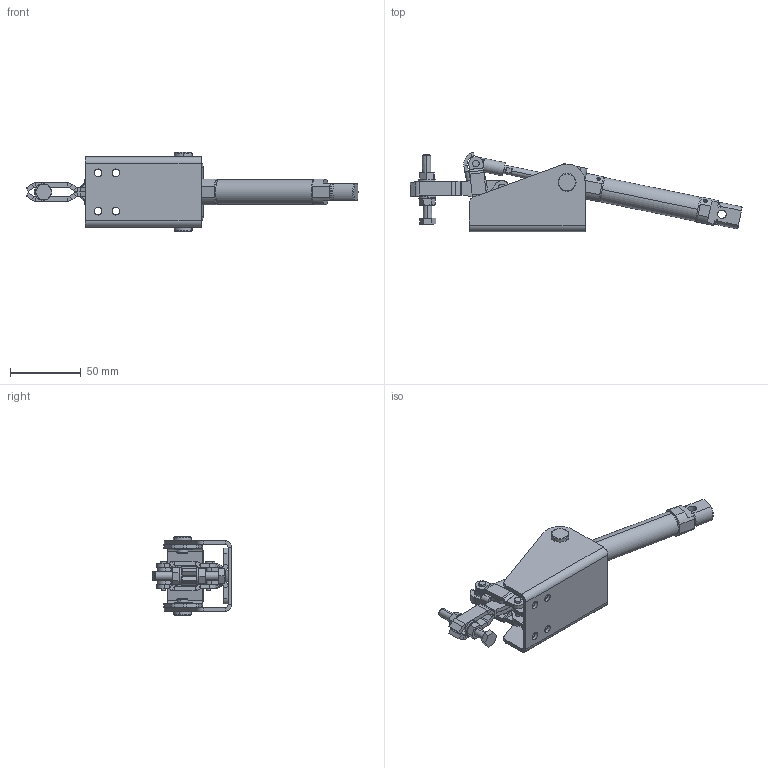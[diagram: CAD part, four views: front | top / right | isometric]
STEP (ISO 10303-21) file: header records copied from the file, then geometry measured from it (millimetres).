
FILE_DESCRIPTION (( 'STEP AP203' ), '1' );
FILE_NAME ('KF-012 DB-P.STEP', '2014-08-28T17:22:28', ( 'Ricardo' ), ( '' ), 'SwSTEP 2.0', 'SolidWorks 2013', '' );
FILE_SCHEMA (( 'CONFIG_CONTROL_DESIGN' ));
Length unit declared in the file: millimetre
Products named in the file (21): 15.20003; 03.13007_Esquerda; CD85N16-35-B_1; 15.10009; 04.10004; CD85N16-35-B_2; 15.10010; 06.50011; CD85N16-35-B_Avan㌢do; 16.20014; 06.50012; KF-012 DB-P; 501-008; 04.20004; 02.12011_Direita; 11.50001; 02.12011_Esquerda; 12.50002; 01.10023; 17.50001; 03.13007_Direita
Assembly tree (27 placements, depth 3):
  KF-012 DB-P
    02.12011_Direita
    02.12011_Esquerda
    01.10023  x2
    03.13007_Direita
    03.13007_Esquerda
    04.10004
    06.50011  x2
    06.50012  x2
    04.20004
    11.50001  x2
    12.50002
    17.50001  x2
    15.20003
    15.10009
    15.10010
    16.20014  x2
    501-008  x2
    CD85N16-35-B_Avan㌢do
      CD85N16-35-B_1
      CD85N16-35-B_2
Bounding box: 235.11 x 56.33 x 56 mm (x, y, z)
Volume: 78993.4 mm3; surface area: 53136.6 mm2
Topology: 26 solids, 26 shells, 670 faces, 1544 edges, 947 vertices
Faces by surface type: plane 308, cylinder 285, cone 70, bspline 4, torus 2, sphere 1
Entity records: 17988 total; most frequent: CARTESIAN_POINT 2983, DIRECTION 2816, ORIENTED_EDGE 2472, EDGE_CURVE 1236, AXIS2_PLACEMENT_3D 1075, VERTEX_POINT 763, VECTOR 666, LINE 666
